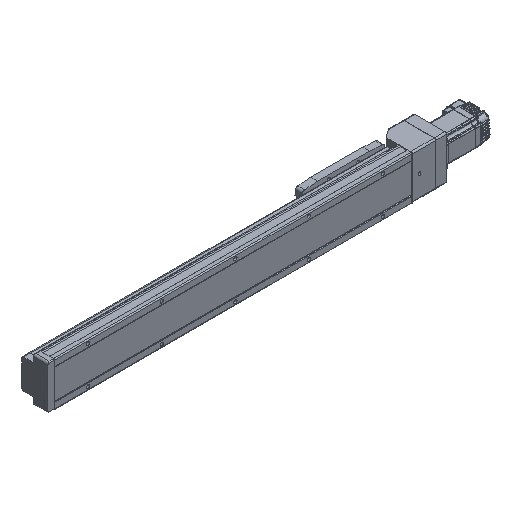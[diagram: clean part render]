
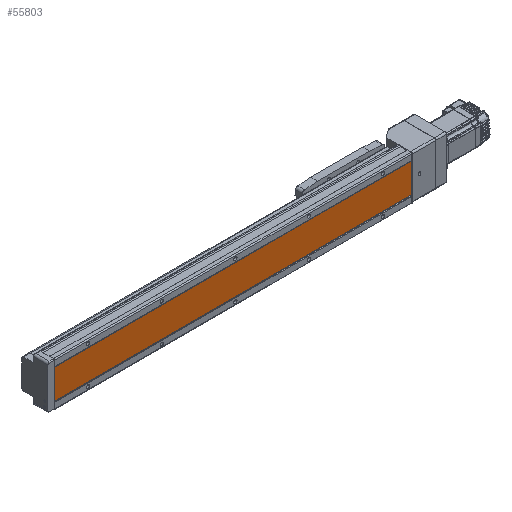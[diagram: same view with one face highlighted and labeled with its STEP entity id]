
A CAD part, isometric view. The second image highlights one B-rep face of the part: STEP entity #55803.
In plain terms, the highlighted planar face has unit normal (0, -1, 0).
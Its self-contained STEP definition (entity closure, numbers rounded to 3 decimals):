
#708 = CARTESIAN_POINT ( 'NONE',  ( -29.843, 1., 1378. ) ) ;
#6784 = EDGE_CURVE ( 'NONE', #23735, #57494, #36970, .T. ) ;
#10275 = DIRECTION ( 'NONE',  ( 0., 0., -1. ) ) ;
#12308 = PLANE ( 'NONE',  #31329 ) ;
#12604 = DIRECTION ( 'NONE',  ( 0., 0., 1. ) ) ;
#14546 = CARTESIAN_POINT ( 'NONE',  ( 29.843, 1., 728. ) ) ;
#15435 = CARTESIAN_POINT ( 'NONE',  ( 29.843, 1., 0. ) ) ;
#15731 = ORIENTED_EDGE ( 'NONE', *, *, #39778, .T. ) ;
#16104 = ORIENTED_EDGE ( 'NONE', *, *, #6784, .F. ) ;
#16334 = LINE ( 'NONE', #20105, #36514 ) ;
#18715 = CARTESIAN_POINT ( 'NONE',  ( -29.843, 1., 728. ) ) ;
#20105 = CARTESIAN_POINT ( 'NONE',  ( 29.843, 1., 1378. ) ) ;
#20312 = LINE ( 'NONE', #42396, #42405 ) ;
#21625 = CARTESIAN_POINT ( 'NONE',  ( -29.843, 1., 1378. ) ) ;
#22902 = VECTOR ( 'NONE', #28260, 1000. ) ;
#23661 = LINE ( 'NONE', #708, #41110 ) ;
#23735 = VERTEX_POINT ( 'NONE', #18715 ) ;
#25612 = DIRECTION ( 'NONE',  ( 0., 0., -1. ) ) ;
#28260 = DIRECTION ( 'NONE',  ( 1., 0., 0. ) ) ;
#29315 = CARTESIAN_POINT ( 'NONE',  ( -29.843, 1., 0. ) ) ;
#31329 = AXIS2_PLACEMENT_3D ( 'NONE', #21625, #38480, #12604 ) ;
#36514 = VECTOR ( 'NONE', #25612, 1000. ) ;
#36970 = LINE ( 'NONE', #51178, #22902 ) ;
#38480 = DIRECTION ( 'NONE',  ( 0., 1., 0. ) ) ;
#39072 = FACE_OUTER_BOUND ( 'NONE', #50899, .T. ) ;
#39778 = EDGE_CURVE ( 'NONE', #23735, #45999, #23661, .T. ) ;
#41110 = VECTOR ( 'NONE', #10275, 1000. ) ;
#41572 = EDGE_CURVE ( 'NONE', #57494, #43529, #16334, .T. ) ;
#42396 = CARTESIAN_POINT ( 'NONE',  ( -29.843, 1., 0. ) ) ;
#42405 = VECTOR ( 'NONE', #51381, 1000. ) ;
#43529 = VERTEX_POINT ( 'NONE', #15435 ) ;
#45868 = ORIENTED_EDGE ( 'NONE', *, *, #45955, .T. ) ;
#45955 = EDGE_CURVE ( 'NONE', #45999, #43529, #20312, .T. ) ;
#45999 = VERTEX_POINT ( 'NONE', #29315 ) ;
#50899 = EDGE_LOOP ( 'NONE', ( #16104, #15731, #45868, #52884 ) ) ;
#51178 = CARTESIAN_POINT ( 'NONE',  ( -29.843, 1., 728. ) ) ;
#51381 = DIRECTION ( 'NONE',  ( 1., 0., 0. ) ) ;
#52884 = ORIENTED_EDGE ( 'NONE', *, *, #41572, .F. ) ;
#55803 = ADVANCED_FACE ( 'NONE', ( #39072 ), #12308, .F. ) ;
#57494 = VERTEX_POINT ( 'NONE', #14546 ) ;
